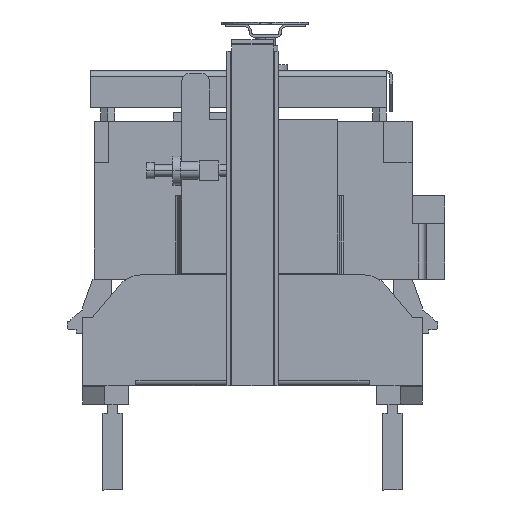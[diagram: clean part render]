
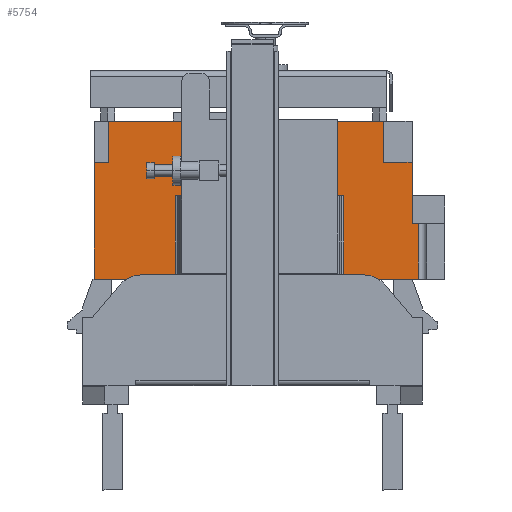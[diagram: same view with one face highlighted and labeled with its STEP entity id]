
A CAD part, left-side view. The second image highlights one B-rep face of the part: STEP entity #5754.
In plain terms, the highlighted planar face has unit normal (-1, 0, 0).
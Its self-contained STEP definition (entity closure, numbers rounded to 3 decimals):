
#81 = LINE ( 'NONE', #21209, #11412 ) ;
#253 = VERTEX_POINT ( 'NONE', #3053 ) ;
#388 = VECTOR ( 'NONE', #23082, 1000. ) ;
#559 = AXIS2_PLACEMENT_3D ( 'NONE', #613, #9610, #21042 ) ;
#613 = CARTESIAN_POINT ( 'NONE',  ( -225., 0., 0. ) ) ;
#1673 = LINE ( 'NONE', #19603, #10854 ) ;
#1850 = EDGE_CURVE ( 'NONE', #20819, #28106, #17976, .T. ) ;
#1895 = CARTESIAN_POINT ( 'NONE',  ( -225., 227.378, 0. ) ) ;
#2074 = VERTEX_POINT ( 'NONE', #8812 ) ;
#2350 = VECTOR ( 'NONE', #22566, 1000. ) ;
#3053 = CARTESIAN_POINT ( 'NONE',  ( -225., 277.247, 0. ) ) ;
#3408 = VECTOR ( 'NONE', #19947, 1000. ) ;
#3502 = CARTESIAN_POINT ( 'NONE',  ( -225., 103.86, 86. ) ) ;
#3742 = LINE ( 'NONE', #23450, #12205 ) ;
#3750 = CARTESIAN_POINT ( 'NONE',  ( -225., 277.247, 86. ) ) ;
#4258 = LINE ( 'NONE', #3750, #8883 ) ;
#4271 = CARTESIAN_POINT ( 'NONE',  ( -225., 63.042, 120.35 ) ) ;
#4276 = CARTESIAN_POINT ( 'NONE',  ( -225., 33.542, 120.35 ) ) ;
#4279 = VERTEX_POINT ( 'NONE', #10754 ) ;
#4398 = CARTESIAN_POINT ( 'NONE',  ( -225., 33.677, 57.45 ) ) ;
#4984 = VECTOR ( 'NONE', #16419, 1000. ) ;
#5020 = EDGE_CURVE ( 'NONE', #23191, #25004, #12447, .T. ) ;
#5348 = ORIENTED_EDGE ( 'NONE', *, *, #19414, .F. ) ;
#5366 = CARTESIAN_POINT ( 'NONE',  ( -225., 33.596, 120.35 ) ) ;
#5394 = CARTESIAN_POINT ( 'NONE',  ( -225., 277.247, 86. ) ) ;
#5754 = ADVANCED_FACE ( 'NONE', ( #19685 ), #18774, .F. ) ;
#5837 = ORIENTED_EDGE ( 'NONE', *, *, #17829, .T. ) ;
#6319 = EDGE_CURVE ( 'NONE', #9319, #16741, #21348, .T. ) ;
#6412 = VECTOR ( 'NONE', #23198, 1000. ) ;
#6809 = DIRECTION ( 'NONE',  ( 0., -1., 0. ) ) ;
#7391 = ORIENTED_EDGE ( 'NONE', *, *, #5020, .F. ) ;
#7689 = CARTESIAN_POINT ( 'NONE',  ( -225., 346.2, 120.35 ) ) ;
#7911 = LINE ( 'NONE', #14022, #26746 ) ;
#8128 = VECTOR ( 'NONE', #18206, 1000. ) ;
#8524 = EDGE_CURVE ( 'NONE', #16741, #9728, #17188, .T. ) ;
#8812 = CARTESIAN_POINT ( 'NONE',  ( -225., 103.86, 0. ) ) ;
#8883 = VECTOR ( 'NONE', #10498, 1000. ) ;
#8970 = DIRECTION ( 'NONE',  ( 0., -1., 0. ) ) ;
#9081 = LINE ( 'NONE', #4271, #2350 ) ;
#9190 = DIRECTION ( 'NONE',  ( 0., 0.001, -1. ) ) ;
#9319 = VERTEX_POINT ( 'NONE', #5366 ) ;
#9334 = CARTESIAN_POINT ( 'NONE',  ( -225., 153.728, 0. ) ) ;
#9610 = DIRECTION ( 'NONE',  ( 1., 0., 0. ) ) ;
#9728 = VERTEX_POINT ( 'NONE', #29264 ) ;
#9890 = DIRECTION ( 'NONE',  ( 0., 0., -1. ) ) ;
#10130 = VERTEX_POINT ( 'NONE', #9334 ) ;
#10498 = DIRECTION ( 'NONE',  ( 0., 0., -1. ) ) ;
#10635 = DIRECTION ( 'NONE',  ( 0., -1., 0. ) ) ;
#10673 = CARTESIAN_POINT ( 'NONE',  ( -225., 33.677, 57.45 ) ) ;
#10754 = CARTESIAN_POINT ( 'NONE',  ( -225., 361., 120.35 ) ) ;
#10854 = VECTOR ( 'NONE', #21014, 1000. ) ;
#10996 = LINE ( 'NONE', #21849, #4984 ) ;
#11156 = VECTOR ( 'NONE', #27791, 1000. ) ;
#11178 = VECTOR ( 'NONE', #20088, 1000. ) ;
#11412 = VECTOR ( 'NONE', #9890, 1000. ) ;
#11514 = ORIENTED_EDGE ( 'NONE', *, *, #22800, .F. ) ;
#11689 = EDGE_CURVE ( 'NONE', #12674, #10130, #3742, .T. ) ;
#11867 = CARTESIAN_POINT ( 'NONE',  ( -225., 346.2, 120.35 ) ) ;
#12205 = VECTOR ( 'NONE', #24868, 1000. ) ;
#12215 = VERTEX_POINT ( 'NONE', #3502 ) ;
#12447 = LINE ( 'NONE', #11867, #6412 ) ;
#12674 = VERTEX_POINT ( 'NONE', #18955 ) ;
#12816 = ORIENTED_EDGE ( 'NONE', *, *, #13607, .F. ) ;
#12847 = LINE ( 'NONE', #4276, #28146 ) ;
#12933 = EDGE_CURVE ( 'NONE', #20133, #9319, #12847, .T. ) ;
#13565 = EDGE_CURVE ( 'NONE', #12215, #2074, #10996, .T. ) ;
#13607 = EDGE_CURVE ( 'NONE', #20819, #253, #4258, .T. ) ;
#13642 = LINE ( 'NONE', #14154, #11156 ) ;
#14022 = CARTESIAN_POINT ( 'NONE',  ( -225., 27.25, 70.959 ) ) ;
#14154 = CARTESIAN_POINT ( 'NONE',  ( -225., 153.728, 86. ) ) ;
#14369 = VECTOR ( 'NONE', #22873, 1000. ) ;
#14465 = EDGE_CURVE ( 'NONE', #17425, #2074, #18773, .T. ) ;
#14544 = ORIENTED_EDGE ( 'NONE', *, *, #15389, .F. ) ;
#15252 = ORIENTED_EDGE ( 'NONE', *, *, #14465, .F. ) ;
#15345 = CARTESIAN_POINT ( 'NONE',  ( -225., 361., 162.85 ) ) ;
#15389 = EDGE_CURVE ( 'NONE', #253, #19292, #1673, .T. ) ;
#15901 = CARTESIAN_POINT ( 'NONE',  ( -225., 0., 0. ) ) ;
#15948 = ORIENTED_EDGE ( 'NONE', *, *, #1850, .T. ) ;
#16419 = DIRECTION ( 'NONE',  ( 0., 0., -1. ) ) ;
#16741 = VERTEX_POINT ( 'NONE', #10673 ) ;
#17188 = LINE ( 'NONE', #4398, #28563 ) ;
#17257 = CARTESIAN_POINT ( 'NONE',  ( -225., 63.042, 120.35 ) ) ;
#17425 = VERTEX_POINT ( 'NONE', #20628 ) ;
#17814 = LINE ( 'NONE', #25351, #388 ) ;
#17829 = EDGE_CURVE ( 'NONE', #28106, #25974, #81, .T. ) ;
#17976 = LINE ( 'NONE', #24349, #11178 ) ;
#18084 = EDGE_CURVE ( 'NONE', #9728, #17425, #7911, .T. ) ;
#18198 = CARTESIAN_POINT ( 'NONE',  ( -225., 361., 0. ) ) ;
#18206 = DIRECTION ( 'NONE',  ( 0., 1., 0. ) ) ;
#18384 = CARTESIAN_POINT ( 'NONE',  ( -225., 227.378, 86. ) ) ;
#18603 = ORIENTED_EDGE ( 'NONE', *, *, #20501, .T. ) ;
#18773 = LINE ( 'NONE', #15901, #8128 ) ;
#18774 = PLANE ( 'NONE',  #559 ) ;
#18847 = EDGE_LOOP ( 'NONE', ( #25975, #15252, #25266, #21245, #21324, #22346, #18603, #21319, #7391, #11514, #5348, #14544, #12816, #15948, #5837, #26264, #27175, #28624 ) ) ;
#18955 = CARTESIAN_POINT ( 'NONE',  ( -225., 153.728, 86. ) ) ;
#19292 = VERTEX_POINT ( 'NONE', #25128 ) ;
#19414 = EDGE_CURVE ( 'NONE', #19292, #4279, #25063, .T. ) ;
#19418 = LINE ( 'NONE', #15345, #3408 ) ;
#19603 = CARTESIAN_POINT ( 'NONE',  ( -225., 0., 0. ) ) ;
#19685 = FACE_OUTER_BOUND ( 'NONE', #18847, .T. ) ;
#19941 = VECTOR ( 'NONE', #6809, 1000. ) ;
#19947 = DIRECTION ( 'NONE',  ( 0., -1., 0. ) ) ;
#20088 = DIRECTION ( 'NONE',  ( 0., -1., 0. ) ) ;
#20133 = VERTEX_POINT ( 'NONE', #17257 ) ;
#20405 = CARTESIAN_POINT ( 'NONE',  ( -225., 361., 120.35 ) ) ;
#20501 = EDGE_CURVE ( 'NONE', #20133, #22926, #9081, .T. ) ;
#20628 = CARTESIAN_POINT ( 'NONE',  ( -225., 27.25, 0. ) ) ;
#20819 = VERTEX_POINT ( 'NONE', #5394 ) ;
#20903 = DIRECTION ( 'NONE',  ( 0., 0., -1. ) ) ;
#21014 = DIRECTION ( 'NONE',  ( 0., 1., 0. ) ) ;
#21042 = DIRECTION ( 'NONE',  ( 0., 0., -1. ) ) ;
#21209 = CARTESIAN_POINT ( 'NONE',  ( -225., 227.378, 86. ) ) ;
#21245 = ORIENTED_EDGE ( 'NONE', *, *, #8524, .F. ) ;
#21319 = ORIENTED_EDGE ( 'NONE', *, *, #24757, .F. ) ;
#21324 = ORIENTED_EDGE ( 'NONE', *, *, #6319, .F. ) ;
#21339 = LINE ( 'NONE', #20405, #19941 ) ;
#21348 = LINE ( 'NONE', #25103, #27407 ) ;
#21849 = CARTESIAN_POINT ( 'NONE',  ( -225., 103.86, 86. ) ) ;
#22346 = ORIENTED_EDGE ( 'NONE', *, *, #12933, .F. ) ;
#22566 = DIRECTION ( 'NONE',  ( 0., 0., 1. ) ) ;
#22800 = EDGE_CURVE ( 'NONE', #4279, #23191, #21339, .T. ) ;
#22873 = DIRECTION ( 'NONE',  ( 0., 0., 1. ) ) ;
#22883 = EDGE_CURVE ( 'NONE', #10130, #25974, #17814, .T. ) ;
#22926 = VERTEX_POINT ( 'NONE', #27755 ) ;
#23082 = DIRECTION ( 'NONE',  ( 0., 1., 0. ) ) ;
#23191 = VERTEX_POINT ( 'NONE', #7689 ) ;
#23198 = DIRECTION ( 'NONE',  ( 0., 0., 1. ) ) ;
#23450 = CARTESIAN_POINT ( 'NONE',  ( -225., 153.728, 86. ) ) ;
#24265 = EDGE_CURVE ( 'NONE', #12674, #12215, #13642, .T. ) ;
#24349 = CARTESIAN_POINT ( 'NONE',  ( -225., 277.247, 86. ) ) ;
#24757 = EDGE_CURVE ( 'NONE', #25004, #22926, #19418, .T. ) ;
#24868 = DIRECTION ( 'NONE',  ( 0., 0., -1. ) ) ;
#25004 = VERTEX_POINT ( 'NONE', #27465 ) ;
#25063 = LINE ( 'NONE', #18198, #14369 ) ;
#25103 = CARTESIAN_POINT ( 'NONE',  ( -225., 33.542, 162.85 ) ) ;
#25128 = CARTESIAN_POINT ( 'NONE',  ( -225., 361., 0. ) ) ;
#25266 = ORIENTED_EDGE ( 'NONE', *, *, #18084, .F. ) ;
#25351 = CARTESIAN_POINT ( 'NONE',  ( -225., 0., 0. ) ) ;
#25974 = VERTEX_POINT ( 'NONE', #1895 ) ;
#25975 = ORIENTED_EDGE ( 'NONE', *, *, #13565, .T. ) ;
#26264 = ORIENTED_EDGE ( 'NONE', *, *, #22883, .F. ) ;
#26746 = VECTOR ( 'NONE', #20903, 1000. ) ;
#27175 = ORIENTED_EDGE ( 'NONE', *, *, #11689, .F. ) ;
#27407 = VECTOR ( 'NONE', #9190, 1000. ) ;
#27465 = CARTESIAN_POINT ( 'NONE',  ( -225., 346.2, 162.85 ) ) ;
#27755 = CARTESIAN_POINT ( 'NONE',  ( -225., 63.042, 162.85 ) ) ;
#27791 = DIRECTION ( 'NONE',  ( 0., -1., 0. ) ) ;
#28106 = VERTEX_POINT ( 'NONE', #18384 ) ;
#28146 = VECTOR ( 'NONE', #10635, 1000. ) ;
#28563 = VECTOR ( 'NONE', #8970, 1000. ) ;
#28624 = ORIENTED_EDGE ( 'NONE', *, *, #24265, .T. ) ;
#29264 = CARTESIAN_POINT ( 'NONE',  ( -225., 27.25, 57.45 ) ) ;
